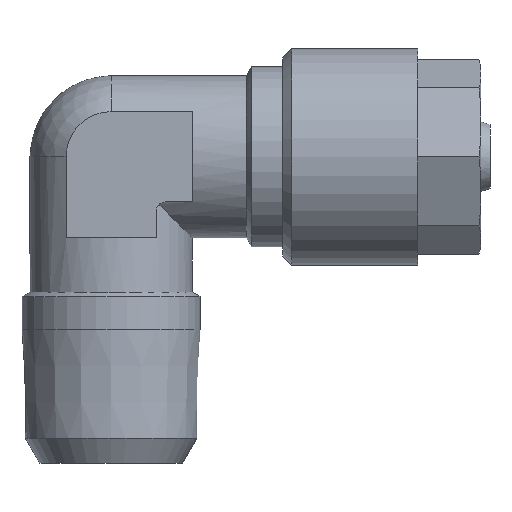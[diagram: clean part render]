
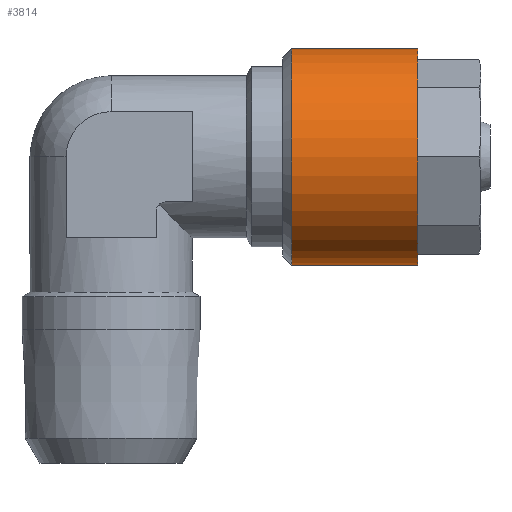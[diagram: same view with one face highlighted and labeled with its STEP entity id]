
A CAD part, front view. The second image highlights one B-rep face of the part: STEP entity #3814.
In plain terms, the highlighted cylindrical face has radius 6 mm (diameter 12 mm), a full revolution.
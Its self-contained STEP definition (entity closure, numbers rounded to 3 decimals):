
#1429=CYLINDRICAL_SURFACE('',#3691,6.);
#1533=ORIENTED_EDGE('',*,*,#1869,.F.);
#1534=ORIENTED_EDGE('',*,*,#1870,.T.);
#1702=CIRCLE('',#3690,6.);
#1703=CIRCLE('',#3692,6.);
#1765=VERTEX_POINT('',#2550);
#1766=VERTEX_POINT('',#2553);
#1869=EDGE_CURVE('',#1765,#1765,#1702,.T.);
#1870=EDGE_CURVE('',#1766,#1766,#1703,.T.);
#1975=EDGE_LOOP('',(#1533));
#1976=EDGE_LOOP('',(#1534));
#2069=FACE_BOUND('',#1975,.T.);
#2070=FACE_BOUND('',#1976,.T.);
#2254=DIRECTION('',(0.,1.,0.));
#2255=DIRECTION('',(0.,0.,6.));
#2256=DIRECTION('',(0.,1.,0.));
#2257=DIRECTION('',(1.,0.,0.));
#2258=DIRECTION('',(0.,1.,0.));
#2259=DIRECTION('',(0.,0.,-6.));
#2550=CARTESIAN_POINT('',(0.,7.5,6.));
#2551=CARTESIAN_POINT('',(0.,7.5,0.));
#2552=CARTESIAN_POINT('',(0.,0.5,0.));
#2553=CARTESIAN_POINT('',(0.,0.5,-6.));
#2554=CARTESIAN_POINT('',(0.,0.5,0.));
#3690=AXIS2_PLACEMENT_3D('',#2551,#2254,#2255);
#3691=AXIS2_PLACEMENT_3D('',#2552,#2256,#2257);
#3692=AXIS2_PLACEMENT_3D('',#2554,#2258,#2259);
#3814=ADVANCED_FACE('',(#2069,#2070),#1429,.T.);
